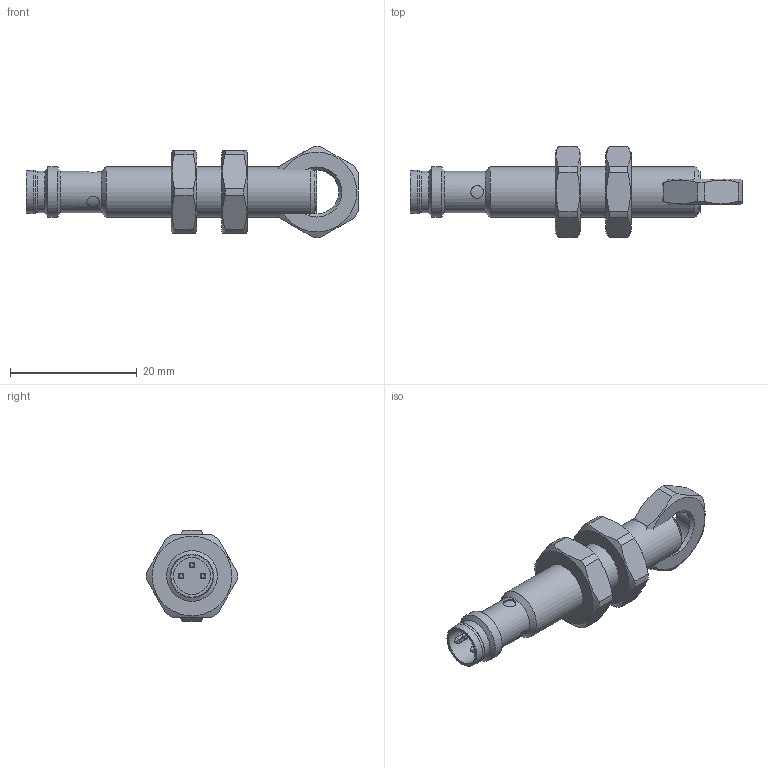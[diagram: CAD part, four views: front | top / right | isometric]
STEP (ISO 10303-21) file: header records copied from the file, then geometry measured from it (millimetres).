
FILE_DESCRIPTION( ( 'Unknown' ), '1' );
FILE_NAME( '//server-file-1/e_me/Solid Edge/Models/Dokumentationen/induktiv/IxRx 08/Vereinfachte Modelle/Neutralformate/IFRM 08xxxA1_S35L.stp', 'Unknown', ( 'Unknown' ), ( 'Unknown' ), 'XStep 1.0', 'Unknown', ' ' );
FILE_SCHEMA( ( 'CONFIG_CONTROL_DESIGN' ) );
Length unit declared in the file: millimetre
Products named in the file (3): Assem1; IFRM 08xxxA1_S35L_oA; 101469
Bounding box: 52.45 x 14.39 x 14.4 mm (x, y, z)
Volume: 5258.1 mm3; surface area: 4030.2 mm2
Topology: 5 solids, 5 shells, 183 faces, 451 edges, 292 vertices
Faces by surface type: plane 86, cylinder 71, cone 26
Full cylindrical faces by diameter (mm): 2 x6, 5.8 x2, 6.4 x2, 6.5 x4, 6.9 x2, 6.917 x3, 8 x4
Entity records: 2663 total; most frequent: CARTESIAN_POINT 674, DIRECTION 398, ORIENTED_EDGE 346, EDGE_CURVE 173, AXIS2_PLACEMENT_3D 157, VERTEX_POINT 125, EDGE_LOOP 114, FACE_OUTER_BOUND 93
